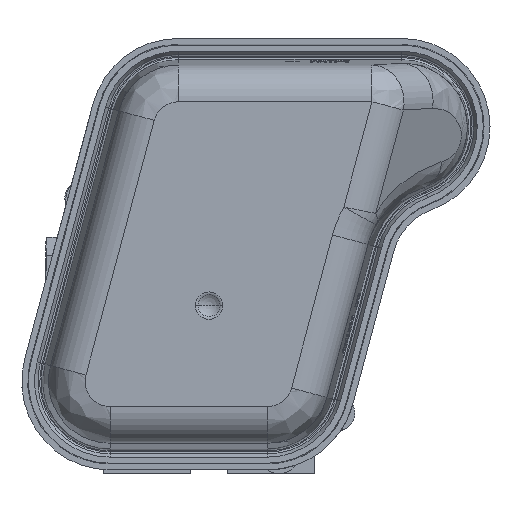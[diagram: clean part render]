
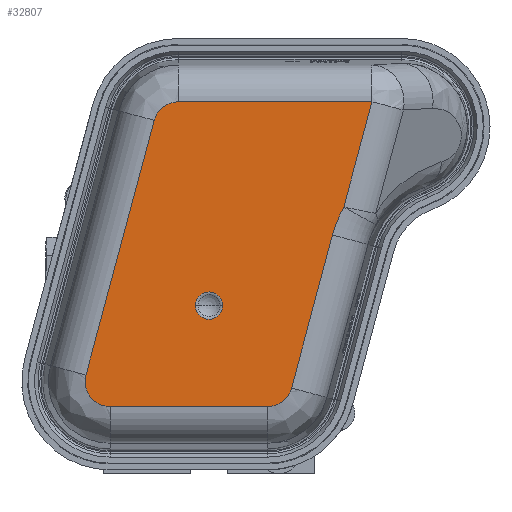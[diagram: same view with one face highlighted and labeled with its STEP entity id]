
A CAD part, front view. The second image highlights one B-rep face of the part: STEP entity #32807.
In plain terms, the highlighted planar face has unit normal (0, -1, 0).
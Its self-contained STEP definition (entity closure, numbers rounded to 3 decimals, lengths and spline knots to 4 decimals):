
#27090=CARTESIAN_POINT('',(-1.3488,-3.892,-0.765));
#27091=DIRECTION('',(0.,-1.,0.));
#27092=DIRECTION('',(-0.966,0.,0.259));
#27093=AXIS2_PLACEMENT_3D('',#27090,#27091,#27092);
#27095=DIRECTION('',(-0.259,0.,-0.966));
#27096=VECTOR('',#27095,3.5955);
#27097=CARTESIAN_POINT('',(-0.7481,-3.892,2.7964));
#27098=LINE('',#27097,#27096);
#27099=CARTESIAN_POINT('',(-0.4183,-3.892,2.708));
#27100=DIRECTION('',(0.,-1.,0.));
#27101=DIRECTION('',(0.,0.,1.));
#27102=AXIS2_PLACEMENT_3D('',#27099,#27100,#27101);
#27104=DIRECTION('',(0.259,0.,0.966));
#27105=VECTOR('',#27104,1.4867);
#27106=CARTESIAN_POINT('',(1.8363,-3.892,
1.6134));
#27107=LINE('',#27106,#27105);
#27108=CARTESIAN_POINT('',(3.319,-3.892,0.795));
#27109=DIRECTION('',(0.,1.,0.));
#27110=DIRECTION('',(-0.966,0.,0.259));
#27111=AXIS2_PLACEMENT_3D('',#27108,#27109,#27110);
#27113=DIRECTION('',(0.259,0.,0.966));
#27114=VECTOR('',#27113,2.1603);
#27115=CARTESIAN_POINT('',(1.124,-3.892,-0.8534));
#27116=LINE('',#27115,#27114);
#27117=CARTESIAN_POINT('',(0.7942,-3.892,-0.765));
#27118=DIRECTION('',(0.,-1.,0.));
#27119=DIRECTION('',(0.,0.,-1.));
#27120=AXIS2_PLACEMENT_3D('',#27117,#27118,#27119);
#27122=CARTESIAN_POINT('',(0.,-3.892,0.27));
#27123=DIRECTION('',(0.,1.,0.));
#27124=DIRECTION('',(-1.,0.,0.));
#27125=AXIS2_PLACEMENT_3D('',#27122,#27123,#27124);
#27127=CARTESIAN_POINT('',(0.,-3.892,0.27));
#27128=DIRECTION('',(0.,1.,0.));
#27129=DIRECTION('',(1.,0.,0.));
#27130=AXIS2_PLACEMENT_3D('',#27127,#27128,#27129);
#27132=DIRECTION('',(1.,0.,0.));
#27133=VECTOR('',#27132,2.143);
#27134=CARTESIAN_POINT('',(-1.3488,-3.892,-1.1065));
#27135=LINE('',#27134,#27133);
#29624=DIRECTION('',(-1.,0.,0.));
#29625=VECTOR('',#29624,2.6394);
#29626=CARTESIAN_POINT('',(2.2211,-3.892,
3.0495));
#29627=LINE('',#29626,#29625);
#31197=CARTESIAN_POINT('',(-1.3488,-3.892,-1.1065));
#31198=CARTESIAN_POINT('',(0.7942,-3.892,-1.1065));
#31199=VERTEX_POINT('',#31197);
#31200=VERTEX_POINT('',#31198);
#31201=CARTESIAN_POINT('',(-1.6787,-3.892,-0.6766));
#31202=VERTEX_POINT('',#31201);
#31203=CARTESIAN_POINT('',(-0.7481,-3.892,2.7964));
#31204=VERTEX_POINT('',#31203);
#31205=CARTESIAN_POINT('',(-0.4183,-3.892,3.0495));
#31206=VERTEX_POINT('',#31205);
#31207=CARTESIAN_POINT('',(2.2211,-3.892,
3.0495));
#31208=VERTEX_POINT('',#31207);
#31209=CARTESIAN_POINT('',(1.8363,-3.892,
1.6134));
#31210=VERTEX_POINT('',#31209);
#31211=CARTESIAN_POINT('',(1.6832,-3.892,1.2333));
#31212=VERTEX_POINT('',#31211);
#31213=CARTESIAN_POINT('',(1.124,-3.892,-0.8534));
#31214=VERTEX_POINT('',#31213);
#32312=CARTESIAN_POINT('',(0.1865,-3.892,0.27));
#32314=VERTEX_POINT('',#32312);
#32315=CARTESIAN_POINT('',(-0.1865,-3.892,0.27));
#32317=VERTEX_POINT('',#32315);
#32777=CARTESIAN_POINT('',(0.2654,-3.892,0.9715));
#32778=DIRECTION('',(0.,1.,0.));
#32779=DIRECTION('',(-1.,0.,0.));
#32780=AXIS2_PLACEMENT_3D('',#32777,#32778,#32779);
#32781=PLANE('',#32780);
#32783=ORIENTED_EDGE('',*,*,#32782,.F.);
#32785=ORIENTED_EDGE('',*,*,#32784,.F.);
#32787=ORIENTED_EDGE('',*,*,#32786,.F.);
#32789=ORIENTED_EDGE('',*,*,#32788,.F.);
#32791=ORIENTED_EDGE('',*,*,#32790,.F.);
#32792=ORIENTED_EDGE('',*,*,#32769,.F.);
#32794=ORIENTED_EDGE('',*,*,#32793,.F.);
#32796=ORIENTED_EDGE('',*,*,#32795,.F.);
#32798=ORIENTED_EDGE('',*,*,#32797,.F.);
#32799=EDGE_LOOP('',(#32783,#32785,#32787,#32789,#32791,#32792,#32794,#32796,
#32798));
#32800=FACE_OUTER_BOUND('',#32799,.F.);
#32802=ORIENTED_EDGE('',*,*,#32801,.F.);
#32804=ORIENTED_EDGE('',*,*,#32803,.F.);
#32805=EDGE_LOOP('',(#32802,#32804));
#32806=FACE_BOUND('',#32805,.F.);
#32807=ADVANCED_FACE('',(#32800,#32806),#32781,.F.);
#27094=CIRCLE('',#27093,0.3415);
#27103=CIRCLE('',#27102,0.3415);
#27112=CIRCLE('',#27111,1.6935);
#27121=CIRCLE('',#27120,0.3415);
#27126=CIRCLE('',#27125,0.1865);
#27131=CIRCLE('',#27130,0.1865);
#32769=EDGE_CURVE('',#31210,#31208,#27107,.T.);
#32782=EDGE_CURVE('',#31199,#31200,#27135,.T.);
#32784=EDGE_CURVE('',#31202,#31199,#27094,.T.);
#32786=EDGE_CURVE('',#31204,#31202,#27098,.T.);
#32788=EDGE_CURVE('',#31206,#31204,#27103,.T.);
#32790=EDGE_CURVE('',#31208,#31206,#29627,.T.);
#32793=EDGE_CURVE('',#31212,#31210,#27112,.T.);
#32795=EDGE_CURVE('',#31214,#31212,#27116,.T.);
#32797=EDGE_CURVE('',#31200,#31214,#27121,.T.);
#32801=EDGE_CURVE('',#32317,#32314,#27126,.T.);
#32803=EDGE_CURVE('',#32314,#32317,#27131,.T.);
